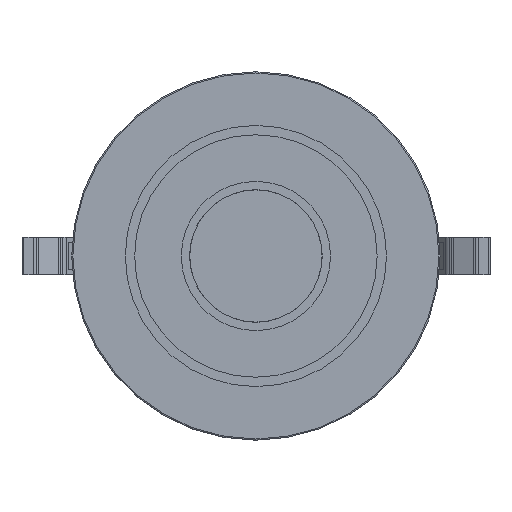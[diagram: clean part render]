
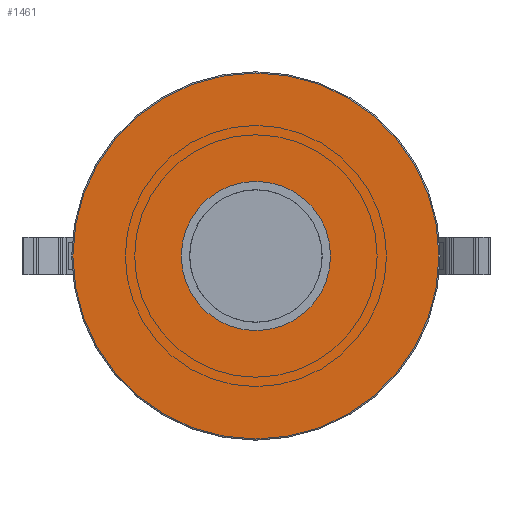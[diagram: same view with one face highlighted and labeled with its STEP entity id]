
A CAD part, front view. The second image highlights one B-rep face of the part: STEP entity #1461.
In plain terms, the highlighted planar face has unit normal (0, -1, 0).
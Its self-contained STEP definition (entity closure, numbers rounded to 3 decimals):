
#108 = AXIS2_PLACEMENT_3D ( 'NONE', #3679, #3079, #3633 ) ;
#236 = AXIS2_PLACEMENT_3D ( 'NONE', #3205, #637, #2352 ) ;
#356 = CARTESIAN_POINT ( 'NONE',  ( 0., 0., -39.25 ) ) ;
#444 = CARTESIAN_POINT ( 'NONE',  ( 0., 0., 0. ) ) ;
#534 = DIRECTION ( 'NONE',  ( 0., 0., 1. ) ) ;
#543 = CARTESIAN_POINT ( 'NONE',  ( 0., 0., 39.25 ) ) ;
#637 = DIRECTION ( 'NONE',  ( 0., 1., 0. ) ) ;
#715 = FACE_BOUND ( 'NONE', #1044, .T. ) ;
#754 = EDGE_LOOP ( 'NONE', ( #3270, #3415 ) ) ;
#888 = DIRECTION ( 'NONE',  ( 0., 0., 1. ) ) ;
#904 = CARTESIAN_POINT ( 'NONE',  ( 0., 0., 5. ) ) ;
#935 = AXIS2_PLACEMENT_3D ( 'NONE', #444, #3068, #3122 ) ;
#1044 = EDGE_LOOP ( 'NONE', ( #2341, #2833 ) ) ;
#1065 = AXIS2_PLACEMENT_3D ( 'NONE', #2554, #3702, #534 ) ;
#1124 = VERTEX_POINT ( 'NONE', #904 ) ;
#1388 = CARTESIAN_POINT ( 'NONE',  ( 0., 0., -5. ) ) ;
#1461 = ADVANCED_FACE ( 'NONE', ( #2803, #715 ), #1899, .F. ) ;
#1896 = VERTEX_POINT ( 'NONE', #543 ) ;
#1899 = PLANE ( 'NONE',  #935 ) ;
#1910 = EDGE_CURVE ( 'NONE', #1896, #3200, #2661, .T. ) ;
#2020 = DIRECTION ( 'NONE',  ( 0., -1., 0. ) ) ;
#2136 = EDGE_CURVE ( 'NONE', #3024, #1124, #2727, .T. ) ;
#2341 = ORIENTED_EDGE ( 'NONE', *, *, #2136, .T. ) ;
#2352 = DIRECTION ( 'NONE',  ( 0., 0., 1. ) ) ;
#2554 = CARTESIAN_POINT ( 'NONE',  ( 0., 0., 0. ) ) ;
#2661 = CIRCLE ( 'NONE', #3386, 39.25 ) ;
#2727 = CIRCLE ( 'NONE', #1065, 5. ) ;
#2803 = FACE_OUTER_BOUND ( 'NONE', #754, .T. ) ;
#2833 = ORIENTED_EDGE ( 'NONE', *, *, #3632, .T. ) ;
#2921 = CARTESIAN_POINT ( 'NONE',  ( 0., 0., 0. ) ) ;
#3024 = VERTEX_POINT ( 'NONE', #1388 ) ;
#3068 = DIRECTION ( 'NONE',  ( 0., 1., 0. ) ) ;
#3079 = DIRECTION ( 'NONE',  ( 0., -1., 0. ) ) ;
#3101 = CIRCLE ( 'NONE', #236, 5. ) ;
#3122 = DIRECTION ( 'NONE',  ( 0., 0., 1. ) ) ;
#3200 = VERTEX_POINT ( 'NONE', #356 ) ;
#3205 = CARTESIAN_POINT ( 'NONE',  ( 0., 0., 0. ) ) ;
#3222 = CIRCLE ( 'NONE', #108, 39.25 ) ;
#3270 = ORIENTED_EDGE ( 'NONE', *, *, #1910, .T. ) ;
#3386 = AXIS2_PLACEMENT_3D ( 'NONE', #2921, #2020, #888 ) ;
#3415 = ORIENTED_EDGE ( 'NONE', *, *, #3494, .T. ) ;
#3494 = EDGE_CURVE ( 'NONE', #3200, #1896, #3222, .T. ) ;
#3632 = EDGE_CURVE ( 'NONE', #1124, #3024, #3101, .T. ) ;
#3633 = DIRECTION ( 'NONE',  ( 0., 0., 1. ) ) ;
#3679 = CARTESIAN_POINT ( 'NONE',  ( 0., 0., 0. ) ) ;
#3702 = DIRECTION ( 'NONE',  ( 0., 1., 0. ) ) ;
